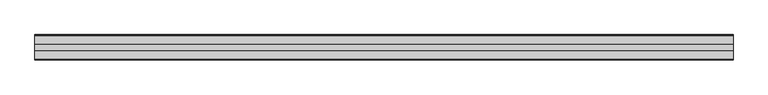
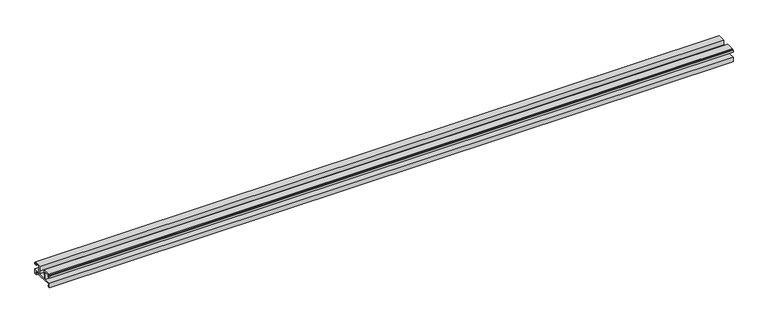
"""IFC4 building model written with IfcOpenShell, lengths in millimetres: proxy geometry, Weiku - Montante - Acoplamento vidro : Weiku - Montante - Acoplamento vidro."""

from ifc_helpers import new_model, si_unit, frame, origin, place, context, project, spatial, polyline, outline, extrude, source, transform, mapped, element, save


def generic_models_911d30c1(model_context):
    return source(origin(), model_context, "Body", "SweptSolid", [
        extrude(outline(polyline([(35.405, 5.1494), (12.495, 5.1494), (12.495, 6.8004), (2.159, 6.8004), (2.159, 2.6094), (4.0216, 2.6094), (4.0216, 0.0), (-0.0014508, 0.0), (-0.0014508, 8.79), (12.954, 8.79), (12.954, 23.3104), (4.3603, 23.3104), (4.3603, 19.204), (0.0, 19.204), (0.0, 22.8024), (0.9736, 22.8024), (0.9736, 20.3894), (3.175, 20.3894), (3.175, 23.9454), (2.3735496, 23.9454), (2.3735496, 25.3), (17.4836, 25.3), (17.4836, 16.283), (15.4516, 16.283), (15.4516, 8.8), (32.4484, 8.8), (32.4484, 16.283), (30.4164, 16.283), (30.4164, 25.3), (45.5264504, 25.3), (45.5264504, 23.9454), (44.725, 23.9454), (44.725, 20.3894), (46.9264, 20.3894), (46.9264, 22.8024), (47.9, 22.8024), (47.9, 19.204), (43.5397, 19.204), (43.5397, 23.3104), (34.946, 23.3104), (34.946, 8.79), (47.9014508, 8.79), (47.9014508, 0.0), (43.8784, 0.0), (43.8784, 2.6094), (45.741, 2.6094), (45.741, 6.8004), (35.405, 6.8004), (35.405, 5.1494)])), frame((-655.6833333, 0.0, 0.0), z_axis=(1.0, 0.0, 0.0), x_axis=(0.0, 1.0, 0.0)), (0.0, 0.0, 1.0), 1311.3666667),
    ])


if __name__ == "__main__":
    model = new_model("IFC4")
    model_context = context("Model", 3, world=origin())
    ifc_project = project(units=[si_unit("LENGTHUNIT", "METRE", prefix="MILLI")], contexts=[model_context])
    site = spatial("IfcSite", under=ifc_project)
    building = spatial("IfcBuilding", under=site)
    placement = place(None, origin())
    generic_models_shape = generic_models_911d30c1(model_context)
    element("IfcBuildingElementProxy", 1, Name="Weiku - Montante - Acoplamento vidro : Weiku - Montante - Acoplamento vidro", ObjectType="Weiku - Montante - Acoplamento vidro : Weiku - Montante - Acoplamento vidro", at=placement, inside=building, context=model_context, shape_type="MappedRepresentation", body=[
        mapped(generic_models_shape, transform((0.0, 0.0, 0.0), x_axis=(1.0, 0.0, 0.0), y_axis=(0.0, 1.0, 0.0), z_axis=(0.0, 0.0, 1.0))),
    ])
    save(model, "model.ifc")
